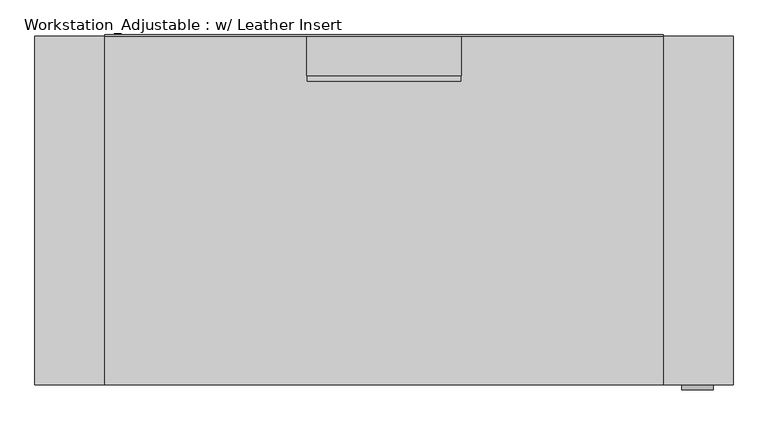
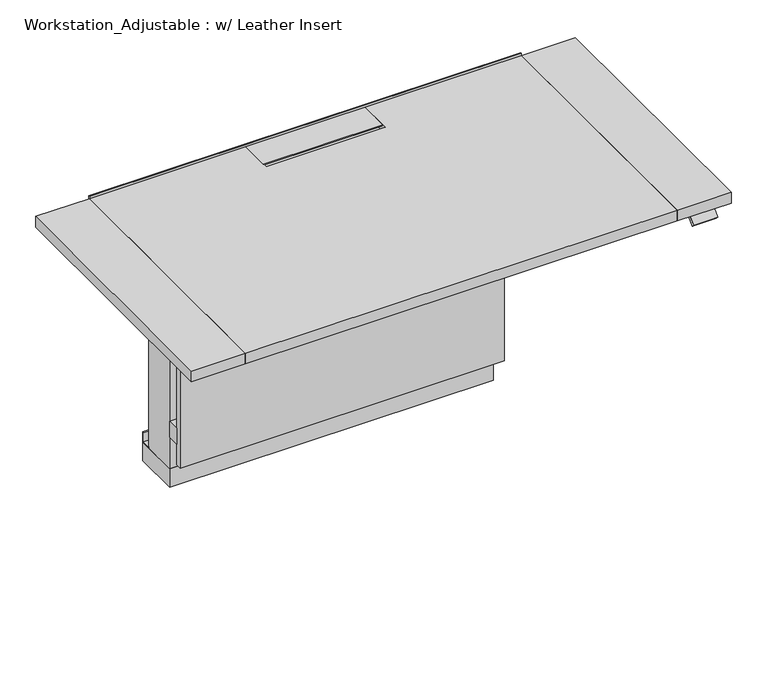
"""IFC4 building model written with IfcOpenShell, lengths in millimetres: furniture geometry, Workstation_Adjustable : w/ Leather Insert."""

from ifc_helpers import new_model, si_unit, frame, origin, origin_with_axes, place, context, project, spatial, polyline, outline, extrude, faceted_brep, source, transform, mapped, element, save


def workstation_adjustable_w_leather_insert_b50b38ab(model_context):
    return source(origin(), model_context, "Body", "SolidModel", [
        extrude(outline(polyline([(-752.4201976, 806.45), (-701.8734375, 806.45), (-701.8734375, 793.5517789), (-753.8937348, 793.5517789), (-768.677545, 778.7679687), (-775.2953125, 785.3857362), (-757.9809444, 802.7001044), (-752.4201976, 802.7001044), (-752.4201976, 806.45)])), frame((650.24, 0.0, 0.0), z_axis=(1.0, 0.0, 0.0), x_axis=(0.0, 1.0, 0.0)), (0.0, 0.0, 1.0), 68.58),
        extrude(outline(polyline([(168.275, -3.175), (168.275, -89.535), (-168.275, -89.535), (-168.275, -3.175), (168.275, -3.175)])), frame((0.0, 0.0, 835.025), z_axis=(0.0, 0.0, 1.0), x_axis=(1.0, 0.0, 0.0)), (0.0, 0.0, 1.0), 3.175),
        faceted_brep([(609.6, -765.175, 838.2), (609.6, -3.175, 838.2), (168.275, -3.175, 838.2), (168.275, -102.235, 838.2), (-168.275, -102.235, 838.2), (-168.275, -3.175, 838.2), (-609.6, -3.175, 838.2), (-609.6, -765.175, 838.2), (609.6, -765.175, 806.45), (-609.6, -765.175, 806.45), (-609.6, -3.175, 806.45), (609.6, -3.175, 806.45), (-168.275, -3.175, 819.15), (168.275, -3.175, 819.15), (-168.275, -102.235, 819.15), (168.275, -102.235, 819.15)], [[[0, 1, 2, 3, 4, 5, 6, 7]], [[8, 9, 10, 11]], [[1, 0, 8, 11]], [[11, 10, 6, 5, 12, 13, 2, 1]], [[7, 6, 10, 9]], [[0, 7, 9, 8]], [[12, 14, 15, 13]], [[14, 12, 5, 4]], [[15, 14, 4, 3]], [[13, 15, 3, 2]]]),
        extrude(outline(polyline([(-609.6, -3.175), (-609.6, -765.175), (-762.0, -765.175), (-762.0, -3.175), (-609.6, -3.175)])), frame((0.0, 0.0, 806.45), z_axis=(0.0, 0.0, 1.0), x_axis=(1.0, 0.0, 0.0)), (0.0, 0.0, 1.0), 31.75),
        extrude(outline(polyline([(609.6, -765.175), (609.6, -3.175), (762.0, -3.175), (762.0, -765.175), (609.6, -765.175)])), frame((0.0, 0.0, 806.45), z_axis=(0.0, 0.0, 1.0), x_axis=(1.0, 0.0, 0.0)), (0.0, 0.0, 1.0), 31.75),
        extrude(outline(polyline([(609.6, 0.0), (609.6, -3.175), (-609.6, -3.175), (-609.6, 0.0), (609.6, 0.0)])), frame((0.0, 0.0, 806.45), z_axis=(0.0, 0.0, 1.0), x_axis=(1.0, 0.0, 0.0)), (0.0, 0.0, 1.0), 38.1),
        extrude(outline(polyline([(-577.3336445, 806.45), (-130.9634162, 806.45), (-130.9634162, 754.2520227), (-577.3336445, 785.4652697), (-577.3336445, 806.45)])), frame((-443.5, 0.0, 0.0), z_axis=(1.0, 0.0, 0.0), x_axis=(0.0, 1.0, 0.0)), (0.0, 0.0, 1.0), 66.675),
        extrude(outline(polyline([(-577.3336445, 806.45), (-130.9634162, 806.45), (-130.9634162, 754.4741833), (-577.3336445, 785.4652697), (-577.3336445, 806.45)])), frame((376.825, 0.0, 0.0), z_axis=(1.0, 0.0, 0.0), x_axis=(0.0, 1.0, 0.0)), (0.0, 0.0, 1.0), 66.675),
        extrude(outline(polyline([(443.5, -28.9460464), (443.5, -130.9634162), (-443.5, -130.9634162), (-443.5, -28.9460464), (443.5, -28.9460464)])), frame((0.0, 0.0, 647.7), z_axis=(0.0, 0.0, 1.0), x_axis=(1.0, 0.0, 0.0)), (0.0, 0.0, 1.0), 158.75),
        extrude(outline(polyline([(457.2, -130.9634162), (457.2, -165.1), (-457.2, -165.1), (-457.2, -130.9634162), (457.2, -130.9634162)])), frame((0.0, 0.0, 532.2152261), z_axis=(0.0, 0.0, 1.0), x_axis=(1.0, 0.0, 0.0)), (0.0, 0.0, 1.0), 47.8582985),
        extrude(outline(polyline([(457.2, -130.9634162), (457.2, -165.1), (-457.2, -165.1), (-457.2, -130.9634162), (457.2, -130.9634162)])), frame((0.0, 0.0, 149.1838463), z_axis=(0.0, 0.0, 1.0), x_axis=(1.0, 0.0, 0.0)), (0.0, 0.0, 1.0), 47.8582985),
        extrude(outline(polyline([(457.2, -165.1), (457.2, -183.0311159), (-457.2, -183.0311159), (-457.2, -165.1), (457.2, -165.1)])), frame((0.0, 0.0, 88.9), z_axis=(0.0, 0.0, 1.0), x_axis=(1.0, 0.0, 0.0)), (0.0, 0.0, 1.0), 558.8),
        extrude(outline(polyline([(457.2, 0.0), (457.2, -165.1), (-457.2, -165.1), (-457.2, 0.0), (457.2, 0.0)])), frame((0.0, 0.0, 628.6379484), z_axis=(0.0, 0.0, 1.0), x_axis=(1.0, 0.0, 0.0)), (0.0, 0.0, 1.0), 19.0620516),
        extrude(outline(polyline([(-15.0025037, 489.2598982), (-3.8829287, 489.2598982), (-3.8829287, 624.4492909), (-30.0050612, 624.4492909), (-30.0050612, 628.6379484), (0.0, 628.6379484), (0.0, 485.2002965), (-15.0025037, 485.2002965), (-15.0025037, 489.2598982)])), frame((-457.2, 0.0, 0.0), z_axis=(1.0, 0.0, 0.0), x_axis=(0.0, 1.0, 0.0)), (0.0, 0.0, 1.0), 914.4),
        extrude(outline(polyline([(0.0, 85.9815469), (0.0, 55.9507362), (-30.0050612, 55.9507362), (-30.0050612, 59.0724938), (-3.0004253, 59.0724938), (-3.0004253, 85.9815469), (0.0, 85.9815469)])), frame((-457.2, 0.0, 0.0), z_axis=(1.0, 0.0, 0.0), x_axis=(0.0, 1.0, 0.0)), (0.0, 0.0, 1.0), 914.4),
        extrude(outline(polyline([(457.2, -30.0050612), (457.2, -130.9634162), (-457.2, -130.9634162), (-457.2, -30.0050612), (457.2, -30.0050612)])), frame((0.0, 0.0, 55.9507362), z_axis=(0.0, 0.0, 1.0), x_axis=(1.0, 0.0, 0.0)), (0.0, 0.0, 1.0), 572.6872123),
        extrude(outline(polyline([(457.2, 0.0), (457.2, -130.9634162), (-457.2, -130.9634162), (-457.2, 0.0), (457.2, 0.0)])), origin_with_axes(), (0.0, 0.0, 1.0), 55.9507362),
    ])


if __name__ == "__main__":
    model = new_model("IFC4")
    model_context = context("Model", 3, world=origin())
    ifc_project = project(units=[si_unit("LENGTHUNIT", "METRE", prefix="MILLI")], contexts=[model_context])
    site = spatial("IfcSite", under=ifc_project)
    building = spatial("IfcBuilding", under=site)
    placement = place(None, origin())
    workstation_adjustable_w_leather_insert_shape = workstation_adjustable_w_leather_insert_b50b38ab(model_context)
    element("IfcFurniture", 1, ObjectType="Workstation_Adjustable : w/ Leather Insert", at=placement, inside=building, context=model_context, shape_type="MappedRepresentation", body=[
        mapped(workstation_adjustable_w_leather_insert_shape, transform((0.0, 0.0, 0.0), x_axis=(1.0, 0.0, 0.0), y_axis=(0.0, 1.0, 0.0), z_axis=(0.0, 0.0, 1.0))),
    ])
    save(model, "model.ifc")
